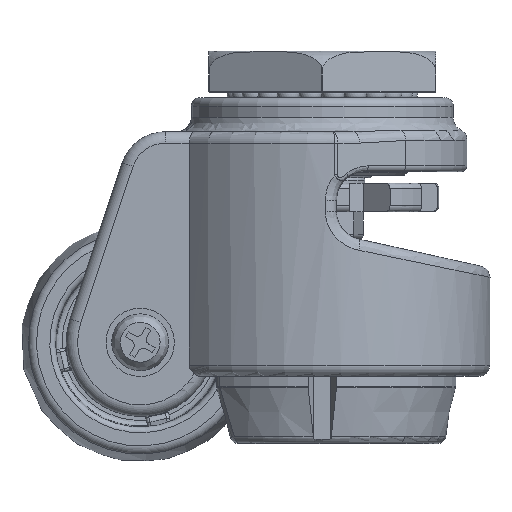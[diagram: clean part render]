
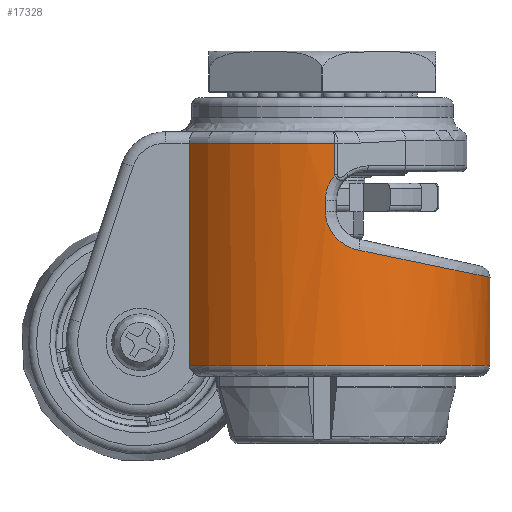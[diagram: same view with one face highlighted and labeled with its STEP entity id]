
A CAD part, front view. The second image highlights one B-rep face of the part: STEP entity #17328.
In plain terms, the highlighted cylindrical face has radius 29.5 mm (diameter 59 mm), a partial arc.
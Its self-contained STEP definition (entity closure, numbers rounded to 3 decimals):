
#15135=CARTESIAN_POINT('',(-23.372,18.0,-41.));
#15136=VERTEX_POINT('',#15135);
#15156=CARTESIAN_POINT('',(-23.372,-18.0,-41.));
#15157=VERTEX_POINT('',#15156);
#15158=CARTESIAN_POINT('',(0.0,0.0,-41.));
#15159=DIRECTION('',(0.0,0.0,-1.0));
#15160=DIRECTION('',(-1.0,0.0,0.0));
#15161=AXIS2_PLACEMENT_3D('',#15158,#15159,#15160);
#15162=CIRCLE('',#15161,29.5);
#15163=EDGE_CURVE('',#15136,#15157,#15162,.T.);
#15573=CARTESIAN_POINT('',(-23.372,18.0,-2.0));
#15574=VERTEX_POINT('',#15573);
#15583=CARTESIAN_POINT('',(-23.372,18.0,-41.));
#15584=DIRECTION('',(0.0,0.0,1.0));
#15585=VECTOR('',#15584,39.);
#15586=LINE('',#15583,#15585);
#15587=EDGE_CURVE('',#15136,#15574,#15586,.T.);
#15924=CARTESIAN_POINT('',(2.224,-29.416,-7.578));
#15925=VERTEX_POINT('',#15924);
#15956=CARTESIAN_POINT('',(0.536,-29.495,-12.));
#15957=VERTEX_POINT('',#15956);
#15958=CARTESIAN_POINT('',(2.224,-29.416,-7.578));
#15959=CARTESIAN_POINT('',(2.145,-29.422,-7.669));
#15960=CARTESIAN_POINT('',(1.873,-29.441,-7.996));
#15961=CARTESIAN_POINT('',(1.461,-29.465,-8.597));
#15962=CARTESIAN_POINT('',(0.918,-29.487,-9.661));
#15963=CARTESIAN_POINT('',(0.596,-29.494,-10.819));
#15964=CARTESIAN_POINT('',(0.536,-29.495,-11.706));
#15965=CARTESIAN_POINT('',(0.536,-29.495,-12.));
#15966=B_SPLINE_CURVE_WITH_KNOTS('',3,(#15958,#15959,#15960,#15961,#15962,#15963,#15964,#15965),.UNSPECIFIED.,.F.,.U.,(4,1,1,1,1,4),(-4.967,-4.932,-4.844,-4.756,-4.58,-4.492),.UNSPECIFIED.);
#15967=EDGE_CURVE('',#15925,#15957,#15966,.T.);
#16044=CARTESIAN_POINT('',(2.224,29.416,-7.578));
#16045=VERTEX_POINT('',#16044);
#16079=CARTESIAN_POINT('',(0.536,29.495,-12.));
#16080=VERTEX_POINT('',#16079);
#16088=CARTESIAN_POINT('',(0.536,29.495,-12.0));
#16089=CARTESIAN_POINT('',(0.536,29.495,-11.706));
#16090=CARTESIAN_POINT('',(0.596,29.494,-10.819));
#16091=CARTESIAN_POINT('',(0.918,29.487,-9.661));
#16092=CARTESIAN_POINT('',(1.461,29.465,-8.597));
#16093=CARTESIAN_POINT('',(1.873,29.441,-7.996));
#16094=CARTESIAN_POINT('',(2.145,29.422,-7.669));
#16095=CARTESIAN_POINT('',(2.224,29.416,-7.578));
#16096=B_SPLINE_CURVE_WITH_KNOTS('',3,(#16088,#16089,#16090,#16091,#16092,#16093,#16094,#16095),.UNSPECIFIED.,.F.,.U.,(4,1,1,1,1,4),(-4.492,-4.404,-4.228,-4.14,-4.052,-4.017),.UNSPECIFIED.);
#16097=EDGE_CURVE('',#16080,#16045,#16096,.T.);
#16108=CARTESIAN_POINT('',(0.536,-29.495,-13.989));
#16109=VERTEX_POINT('',#16108);
#16110=CARTESIAN_POINT('',(0.536,-29.495,-12.));
#16111=DIRECTION('',(0.0,0.0,-1.0));
#16112=VECTOR('',#16111,1.989);
#16113=LINE('',#16110,#16112);
#16114=EDGE_CURVE('',#15957,#16109,#16113,.T.);
#16134=CARTESIAN_POINT('',(0.536,29.495,-13.989));
#16135=VERTEX_POINT('',#16134);
#16143=CARTESIAN_POINT('',(0.536,29.495,-13.989));
#16144=DIRECTION('',(0.0,0.0,1.0));
#16145=VECTOR('',#16144,1.989);
#16146=LINE('',#16143,#16145);
#16147=EDGE_CURVE('',#16135,#16080,#16146,.T.);
#16238=CARTESIAN_POINT('',(6.417,-28.794,-20.822));
#16239=VERTEX_POINT('',#16238);
#16240=CARTESIAN_POINT('',(0.536,-29.495,-13.989));
#16241=CARTESIAN_POINT('',(0.536,-29.495,-14.44));
#16242=CARTESIAN_POINT('',(0.631,-29.494,-15.349));
#16243=CARTESIAN_POINT('',(0.981,-29.485,-16.435));
#16244=CARTESIAN_POINT('',(1.391,-29.468,-17.257));
#16245=CARTESIAN_POINT('',(1.763,-29.448,-17.844));
#16246=CARTESIAN_POINT('',(2.19,-29.42,-18.389));
#16247=CARTESIAN_POINT('',(2.836,-29.367,-19.067));
#16248=CARTESIAN_POINT('',(3.775,-29.266,-19.8));
#16249=CARTESIAN_POINT('',(5.038,-29.077,-20.45));
#16250=CARTESIAN_POINT('',(5.956,-28.896,-20.727));
#16251=CARTESIAN_POINT('',(6.417,-28.794,-20.822));
#16252=B_SPLINE_CURVE_WITH_KNOTS('',3,(#16240,#16241,#16242,#16243,#16244,#16245,#16246,#16247,#16248,#16249,#16250,#16251),.UNSPECIFIED.,.F.,.U.,(4,1,1,1,1,1,1,1,1,4),(-0.946,-0.811,-0.676,-0.608,-0.541,-0.473,-0.405,-0.27,-0.135,0.),.UNSPECIFIED.);
#16253=EDGE_CURVE('',#16109,#16239,#16252,.T.);
#16344=CARTESIAN_POINT('',(6.417,28.794,-20.822));
#16345=VERTEX_POINT('',#16344);
#16353=CARTESIAN_POINT('',(6.417,28.794,-20.822));
#16354=CARTESIAN_POINT('',(5.956,28.896,-20.727));
#16355=CARTESIAN_POINT('',(5.039,29.077,-20.45));
#16356=CARTESIAN_POINT('',(3.774,29.266,-19.799));
#16357=CARTESIAN_POINT('',(2.835,29.367,-19.066));
#16358=CARTESIAN_POINT('',(2.19,29.42,-18.389));
#16359=CARTESIAN_POINT('',(1.619,29.458,-17.66));
#16360=CARTESIAN_POINT('',(1.049,29.483,-16.65));
#16361=CARTESIAN_POINT('',(0.632,29.494,-15.35));
#16362=CARTESIAN_POINT('',(0.536,29.495,-14.44));
#16363=CARTESIAN_POINT('',(0.536,29.495,-13.989));
#16364=B_SPLINE_CURVE_WITH_KNOTS('',3,(#16353,#16354,#16355,#16356,#16357,#16358,#16359,#16360,#16361,#16362,#16363),.UNSPECIFIED.,.F.,.U.,(4,1,1,1,1,1,1,1,4),(-0.946,-0.811,-0.676,-0.541,-0.473,-0.405,-0.27,-0.135,0.0),.UNSPECIFIED.);
#16365=EDGE_CURVE('',#16345,#16135,#16364,.T.);
#16495=CARTESIAN_POINT('',(0.0,0.0,-19.493));
#16496=DIRECTION('',(0.203,0.0,0.979));
#16497=DIRECTION('',(0.979,0.0,-0.203));
#16498=AXIS2_PLACEMENT_3D('',#16495,#16496,#16497);
#16499=ELLIPSE('',#16498,30.126,29.5);
#16500=EDGE_CURVE('',#16239,#16345,#16499,.T.);
#16638=CARTESIAN_POINT('',(2.224,29.416,-2.0));
#16639=VERTEX_POINT('',#16638);
#16655=CARTESIAN_POINT('',(2.224,29.416,-7.578));
#16656=DIRECTION('',(0.0,0.0,1.0));
#16657=VECTOR('',#16656,5.578);
#16658=LINE('',#16655,#16657);
#16659=EDGE_CURVE('',#16045,#16639,#16658,.T.);
#17281=CARTESIAN_POINT('',(0.0,0.0,0.0));
#17282=DIRECTION('',(0.0,0.0,-1.0));
#17283=DIRECTION('',(-1.0,0.0,0.0));
#17284=AXIS2_PLACEMENT_3D('',#17281,#17282,#17283);
#17285=CYLINDRICAL_SURFACE('',#17284,29.5);
#17286=CARTESIAN_POINT('',(-23.372,-18.0,-2.0));
#17287=VERTEX_POINT('',#17286);
#17288=CARTESIAN_POINT('',(2.224,-29.416,-2.));
#17289=VERTEX_POINT('',#17288);
#17290=CARTESIAN_POINT('',(0.0,0.0,-2.0));
#17291=DIRECTION('',(0.0,0.0,1.0));
#17292=DIRECTION('',(-0.407,-0.913,0.0));
#17293=AXIS2_PLACEMENT_3D('',#17290,#17291,#17292);
#17294=CIRCLE('',#17293,29.5);
#17295=EDGE_CURVE('',#17287,#17289,#17294,.T.);
#17296=ORIENTED_EDGE('',*,*,#17295,.F.);
#17297=CARTESIAN_POINT('',(-23.372,-18.0,-2.0));
#17298=DIRECTION('',(0.0,0.0,-1.0));
#17299=VECTOR('',#17298,39.);
#17300=LINE('',#17297,#17299);
#17301=EDGE_CURVE('',#17287,#15157,#17300,.T.);
#17302=ORIENTED_EDGE('',*,*,#17301,.T.);
#17303=ORIENTED_EDGE('',*,*,#15163,.F.);
#17304=ORIENTED_EDGE('',*,*,#15587,.T.);
#17305=CARTESIAN_POINT('',(0.0,0.0,-2.0));
#17306=DIRECTION('',(0.0,0.0,1.0));
#17307=DIRECTION('',(-0.407,0.913,0.0));
#17308=AXIS2_PLACEMENT_3D('',#17305,#17306,#17307);
#17309=CIRCLE('',#17308,29.5);
#17310=EDGE_CURVE('',#16639,#15574,#17309,.T.);
#17311=ORIENTED_EDGE('',*,*,#17310,.F.);
#17312=ORIENTED_EDGE('',*,*,#16659,.F.);
#17313=ORIENTED_EDGE('',*,*,#16097,.F.);
#17314=ORIENTED_EDGE('',*,*,#16147,.F.);
#17315=ORIENTED_EDGE('',*,*,#16365,.F.);
#17316=ORIENTED_EDGE('',*,*,#16500,.F.);
#17317=ORIENTED_EDGE('',*,*,#16253,.F.);
#17318=ORIENTED_EDGE('',*,*,#16114,.F.);
#17319=ORIENTED_EDGE('',*,*,#15967,.F.);
#17320=CARTESIAN_POINT('',(2.224,-29.416,-2.));
#17321=DIRECTION('',(0.0,0.0,-1.0));
#17322=VECTOR('',#17321,5.578);
#17323=LINE('',#17320,#17322);
#17324=EDGE_CURVE('',#17289,#15925,#17323,.T.);
#17325=ORIENTED_EDGE('',*,*,#17324,.F.);
#17326=EDGE_LOOP('',(#17296,#17302,#17303,#17304,#17311,#17312,#17313,#17314,#17315,#17316,#17317,#17318,#17319,#17325));
#17327=FACE_OUTER_BOUND('',#17326,.T.);
#17328=ADVANCED_FACE('',(#17327),#17285,.T.);
